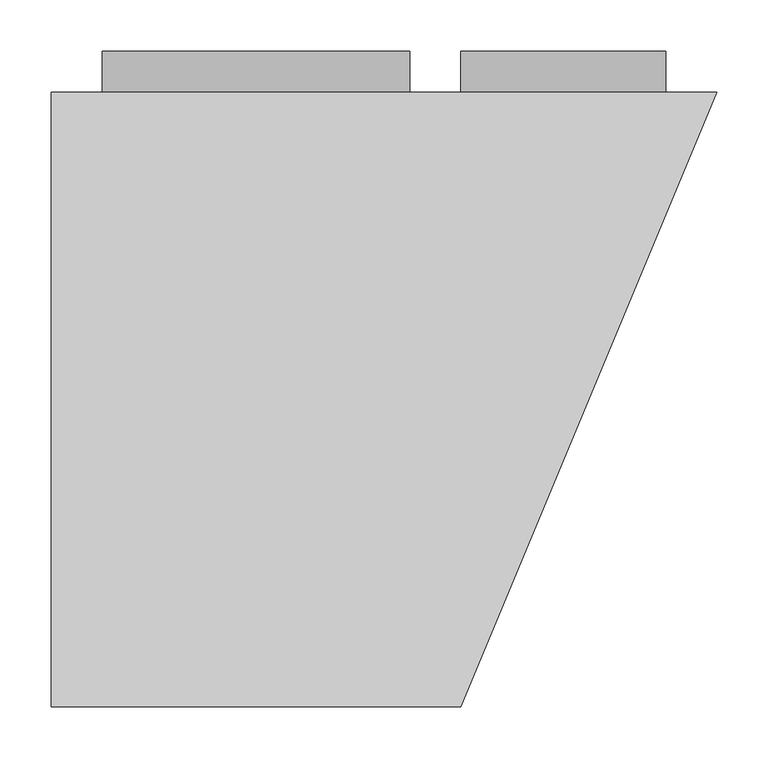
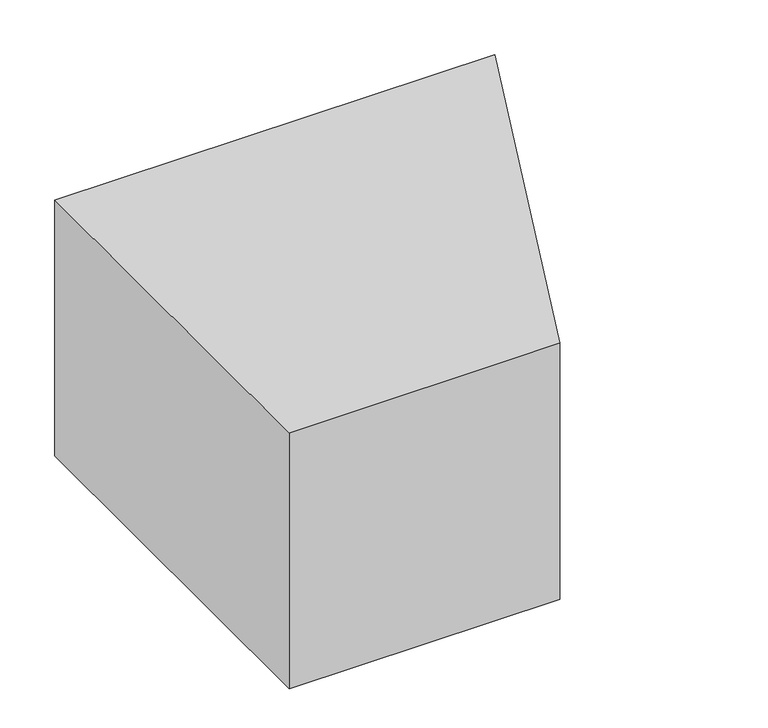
"""IFC4 building model written with IfcOpenShell, lengths in millimetres: duct fitting geometry, BL_Адаптер-НТ_БоковоеПрисоединение : BL_Адаптер-НТ_БоковоеПрисоединение."""

from ifc_helpers import new_model, si_unit, point, frame, frame_2d, origin, place, context, project, spatial, polyline, circle_curve, trimmed, segment, composite_curve, outline, extrude, source, transform, mapped, element, save


def duct_fitting_7b51e7bf(model_context):
    return source(origin(), model_context, "Body", "SweptSolid", [
        extrude(outline(composite_curve([segment(trimmed(circle_curve(frame_2d((0.0, 500.0)), 100.0), [point((0.0, 400.0))], [point((0.0, 600.0))], False, "CARTESIAN"), True, "CONTINUOUS"), segment(trimmed(circle_curve(frame_2d((0.0, 500.0)), 100.0), [point((0.0, 600.0))], [point((0.0, 400.0))], False, "CARTESIAN"), True, "CONTINUOUS")], self_intersect=False)), frame((0.0, 300.0, 0.0), z_axis=(0.0, 1.0, 0.0), x_axis=(0.0, 0.0, 1.0)), (0.0, 0.0, 1.0), 40.0),
        extrude(outline(composite_curve([segment(trimmed(circle_curve(frame_2d((0.0, 200.0)), 150.0), [point((0.0, 50.0))], [point((0.0, 350.0))], False, "CARTESIAN"), True, "CONTINUOUS"), segment(trimmed(circle_curve(frame_2d((0.0, 200.0)), 150.0), [point((0.0, 350.0))], [point((0.0, 50.0))], False, "CARTESIAN"), True, "CONTINUOUS")], self_intersect=False)), frame((0.0, 300.0, 0.0), z_axis=(0.0, 1.0, 0.0), x_axis=(0.0, 0.0, 1.0)), (0.0, 0.0, 1.0), 40.0),
        extrude(outline(polyline([(0.0, -300.0), (0.0, 300.0), (650.0, 300.0), (400.0, -300.0), (0.0, -300.0)])), frame((0.0, 0.0, -200.0), z_axis=(0.0, 0.0, 1.0), x_axis=(1.0, 0.0, 0.0)), (0.0, 0.0, 1.0), 400.0),
    ])


if __name__ == "__main__":
    model = new_model("IFC4")
    model_context = context("Model", 3, world=origin())
    ifc_project = project(units=[si_unit("LENGTHUNIT", "METRE", prefix="MILLI")], contexts=[model_context])
    site = spatial("IfcSite", under=ifc_project)
    building = spatial("IfcBuilding", under=site)
    placement = place(None, origin())
    duct_fitting_shape = duct_fitting_7b51e7bf(model_context)
    element("IfcDuctFitting", 1, ObjectType="BL_Адаптер-НТ_БоковоеПрисоединение : BL_Адаптер-НТ_БоковоеПрисоединение", at=placement, inside=building, context=model_context, shape_type="MappedRepresentation", body=[
        mapped(duct_fitting_shape, transform((0.0, 0.0, 0.0), x_axis=(1.0, 0.0, 0.0), y_axis=(0.0, 1.0, 0.0), z_axis=(0.0, 0.0, 1.0))),
    ])
    save(model, "model.ifc")
